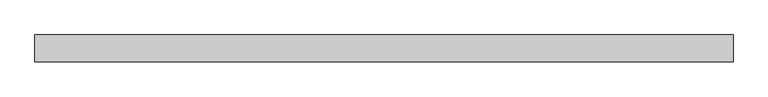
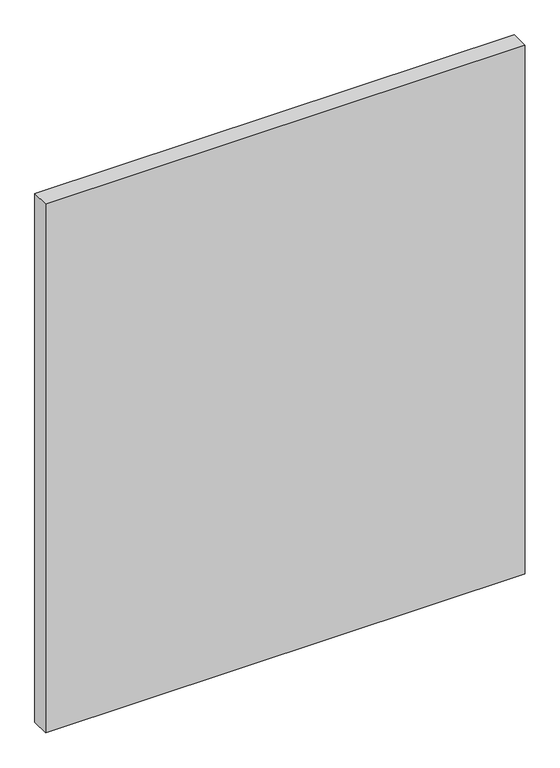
"""IFC4 building model written with IfcOpenShell, lengths in millimetres: plate geometry, Panneau système : Vitré."""

from ifc_helpers import new_model, si_unit, origin, origin_with_axes, place, context, project, spatial, polyline, outline, extrude, source, transform, mapped, element, save


def plate_de3d3c99(model_context):
    return source(origin(), model_context, "Body", "SweptSolid", [
        extrude(outline(polyline([(521.6427249, -20.0), (-521.6427249, -20.0), (-521.6427249, 20.0), (521.6427249, 20.0), (521.6427249, -20.0)])), origin_with_axes(), (0.0, 0.0, 1.0), 1215.0),
    ])


if __name__ == "__main__":
    model = new_model("IFC4")
    model_context = context("Model", 3, world=origin())
    ifc_project = project(units=[si_unit("LENGTHUNIT", "METRE", prefix="MILLI")], contexts=[model_context])
    site = spatial("IfcSite", under=ifc_project)
    building = spatial("IfcBuilding", under=site)
    placement = place(None, origin())
    plate_shape = plate_de3d3c99(model_context)
    element("IfcPlate", 1, ObjectType="Panneau système : Vitré", at=placement, inside=building, context=model_context, shape_type="MappedRepresentation", body=[
        mapped(plate_shape, transform((0.0, 0.0, 0.0), x_axis=(1.0, 0.0, 0.0), y_axis=(0.0, 1.0, 0.0), z_axis=(0.0, 0.0, 1.0))),
    ])
    save(model, "model.ifc")
